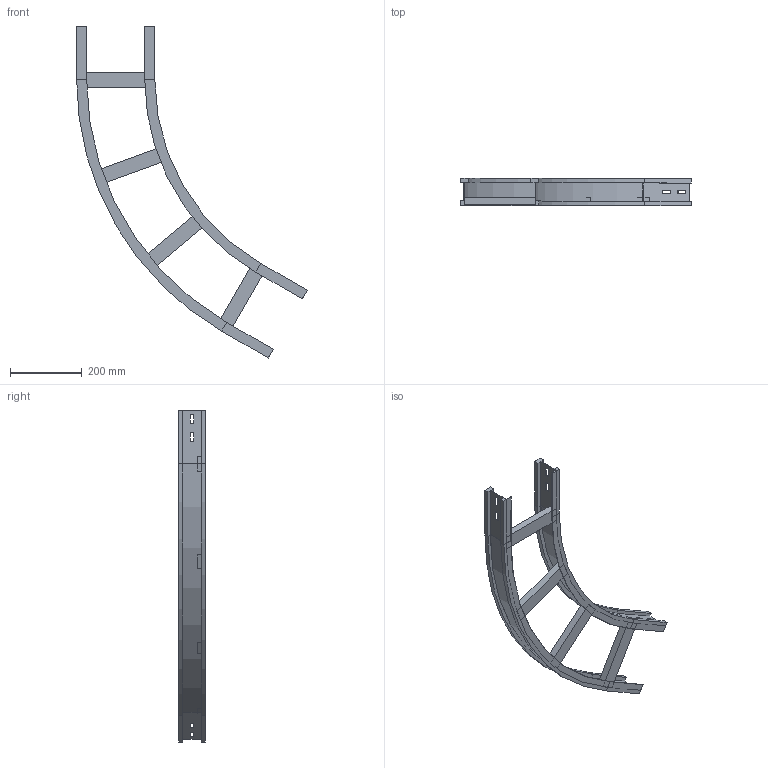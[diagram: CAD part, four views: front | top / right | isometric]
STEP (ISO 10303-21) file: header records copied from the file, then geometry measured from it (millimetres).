
FILE_DESCRIPTION (( 'STEP AP214' ), '1' );
FILE_NAME ('13S6C200.step', '2025-02-21T16:08:14', ( '' ), ( '' ), 'SwSTEP 2.0', 'SolidWorks 2023', '' );
FILE_SCHEMA (( 'AUTOMOTIVE_DESIGN' ));
Length unit declared in the file: millimetre
Products named in the file (4): LONGH.ESTERNO 60°_H75_R600+200; TRAVERSINO_200; 13S6C200; LONGH.INTERNO 60°_H75_R600
Assembly tree (6 placements, depth 2):
  13S6C200
    LONGH.INTERNO 60°_H75_R600
    LONGH.ESTERNO 60°_H75_R600+200
    TRAVERSINO_200  x4
Bounding box: 643.4 x 75 x 925.61 mm (x, y, z)
Volume: 1653639.2 mm3; surface area: 611335.9 mm2
Topology: 6 solids, 6 shells, 132 faces, 312 edges, 192 vertices
Faces by surface type: plane 120, cylinder 12
Entity records: 3397 total; most frequent: CARTESIAN_POINT 567, ORIENTED_EDGE 552, DIRECTION 546, EDGE_CURVE 276, LINE 252, VECTOR 252, VERTEX_POINT 168, AXIS2_PLACEMENT_3D 147
